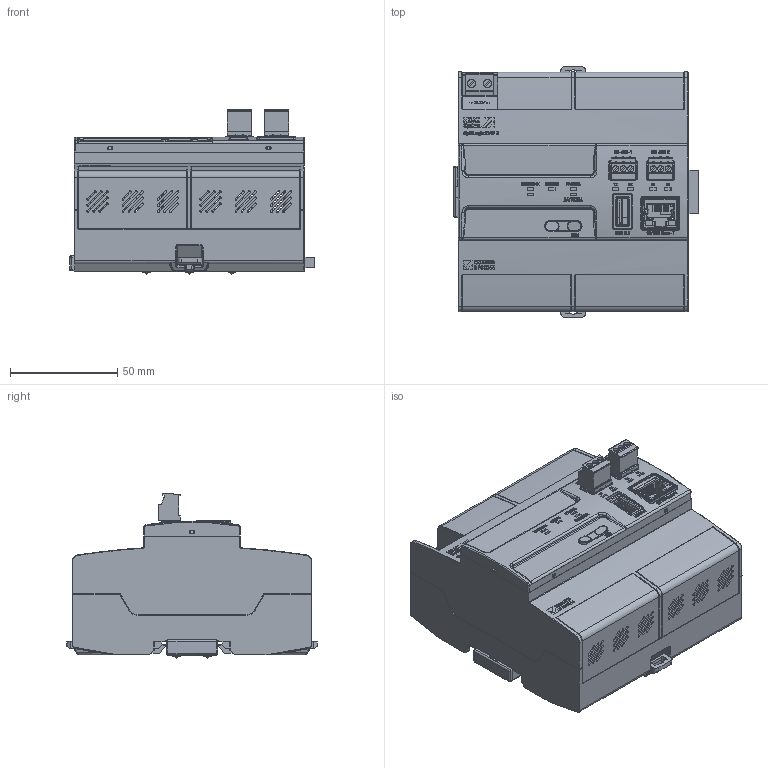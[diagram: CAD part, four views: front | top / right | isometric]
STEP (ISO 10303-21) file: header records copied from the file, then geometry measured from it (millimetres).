
FILE_DESCRIPTION (( 'STEP AP214' ), '1' );
FILE_NAME ('CPU-2.STEP', '2020-11-06T11:50:15', ( '' ), ( '' ), 'SwSTEP 2.0', 'SolidWorks 2018', '' );
FILE_SCHEMA (( 'AUTOMOTIVE_DESIGN' ));
Length unit declared in the file: millimetre
Products named in the file (1): CPU-2
Bounding box: 114.46 x 117.13 x 76.84 mm (x, y, z)
Surface area: 102170.5 mm2 (no closed solid volume)
Topology: 0 solids, 237 shells, 2261 faces, 13505 edges, 11273 vertices
Faces by surface type: plane 1071, cylinder 801, torus 166, bspline 156, cone 37, sphere 30
Full cylindrical faces by diameter (mm): 0.457 x1, 2.9 x6, 3.5 x3, 4 x5, 5.5 x4
Entity records: 176802 total; most frequent: CARTESIAN_POINT 57662, ORIENTED_EDGE 17273, DIRECTION 17020, EDGE_CURVE 13426, VERTEX_POINT 11259, LINE 6664, VECTOR 6664, AXIS2_PLACEMENT_3D 5178
